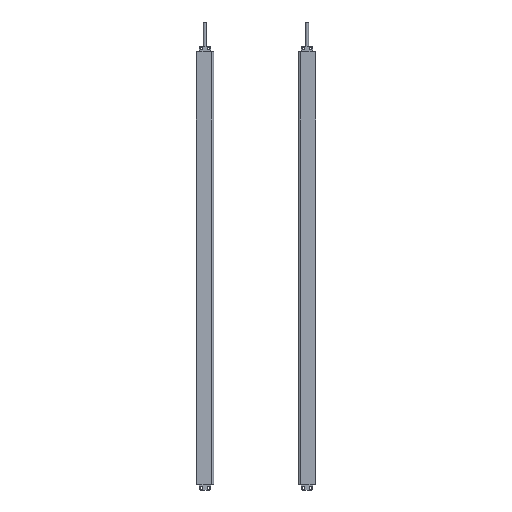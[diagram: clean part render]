
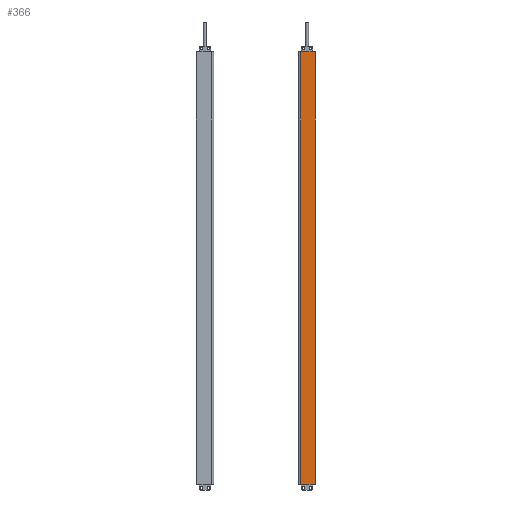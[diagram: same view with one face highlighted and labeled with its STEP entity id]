
A CAD part, front view. The second image highlights one B-rep face of the part: STEP entity #366.
In plain terms, the highlighted planar face has unit normal (0, -1, 0).
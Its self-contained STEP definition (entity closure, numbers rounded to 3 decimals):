
#123=PLANE('',#5869);
#366=ADVANCED_FACE('',(#797),#123,.T.);
#797=FACE_OUTER_BOUND('',#1073,.T.);
#1073=EDGE_LOOP('',(#1780,#1781,#1782,#1783));
#1780=ORIENTED_EDGE('',*,*,#3977,.T.);
#1781=ORIENTED_EDGE('',*,*,#3978,.F.);
#1782=ORIENTED_EDGE('',*,*,#3979,.F.);
#1783=ORIENTED_EDGE('',*,*,#3903,.T.);
#3351=VERTEX_POINT('',#8106);
#3352=VERTEX_POINT('',#8108);
#3421=VERTEX_POINT('',#8253);
#3422=VERTEX_POINT('',#8257);
#3903=EDGE_CURVE('',#3352,#3351,#4726,.T.);
#3977=EDGE_CURVE('',#3351,#3421,#4771,.T.);
#3978=EDGE_CURVE('',#3422,#3421,#4772,.T.);
#3979=EDGE_CURVE('',#3352,#3422,#4773,.T.);
#4726=LINE('',#8107,#5280);
#4771=LINE('',#8254,#5325);
#4772=LINE('',#8256,#5326);
#4773=LINE('',#8258,#5327);
#5280=VECTOR('',#6413,1.);
#5325=VECTOR('',#6522,1.);
#5326=VECTOR('',#6525,1.);
#5327=VECTOR('',#6526,1.);
#5869=AXIS2_PLACEMENT_3D('',#8259,#6527,#6528);
#6413=DIRECTION('',(1.,0.,0.));
#6522=DIRECTION('',(0.,0.,1.));
#6525=DIRECTION('',(1.,0.,0.));
#6526=DIRECTION('',(0.,0.,1.));
#6527=DIRECTION('',(0.,-1.,0.));
#6528=DIRECTION('',(-1.,0.,0.));
#8106=CARTESIAN_POINT('',(3.35,-1.3,-100.));
#8107=CARTESIAN_POINT('',(-21.15,-1.3,-100.));
#8108=CARTESIAN_POINT('',(-21.15,-1.3,-100.));
#8253=CARTESIAN_POINT('',(3.35,-1.3,622.));
#8254=CARTESIAN_POINT('',(3.35,-1.3,-100.));
#8256=CARTESIAN_POINT('',(-4122.897,-1.3,622.));
#8257=CARTESIAN_POINT('',(-21.15,-1.3,622.));
#8258=CARTESIAN_POINT('',(-21.15,-1.3,-100.));
#8259=CARTESIAN_POINT('',(-21.15,-1.3,-100.));
